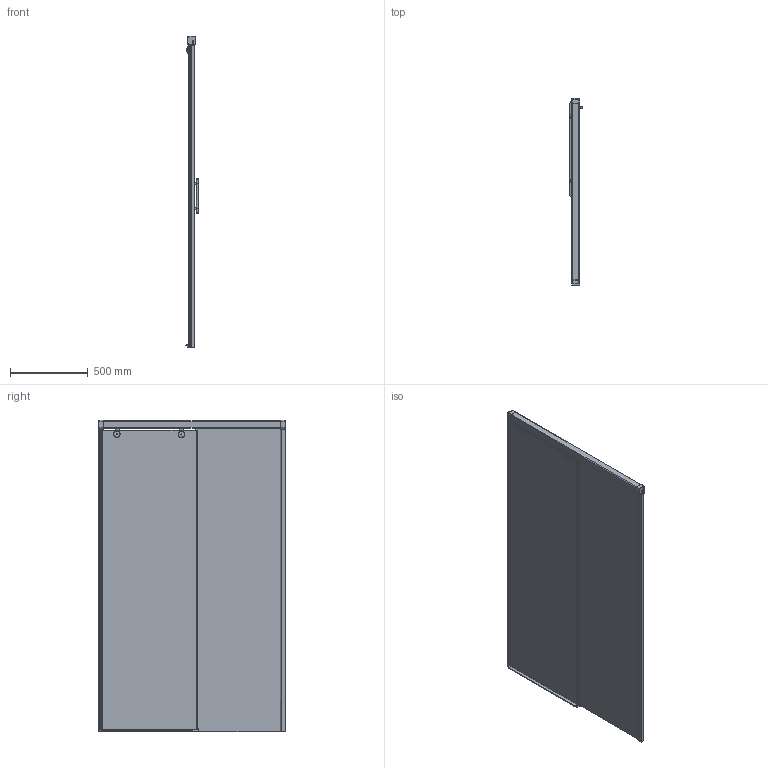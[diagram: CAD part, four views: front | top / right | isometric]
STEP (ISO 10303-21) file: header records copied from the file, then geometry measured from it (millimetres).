
FILE_DESCRIPTION(/* description */ (''),/* implementation_level */ '2;1');
FILE_NAME(/* name */ 'D:\4\!2\SLIDE DOOR GK-862\SLIDE DOOR GK-862 левая модель\SLIDE DOOR GK-862 ЛЕВАЯ-3D.stp',/* time_stamp */ '2017-11-21T15:13:24+03:00',/* author */ ('ChechurovS'),/* organization */ (''),/* preprocessor_version */ 'ST-DEVELOPER v15.2',/* originating_system */ 'Autodesk Inventor 2014',/* authorisation */ '');
FILE_SCHEMA (('CONFIG_CONTROL_DESIGN'));
Length unit declared in the file: millimetre
Products named in the file (1): SLIDE DOOR GK-862 ЛЕВАЯ-3D
Bounding box: 84.5 x 1200 x 2001.5 mm (x, y, z)
Volume: 22098409.7 mm3; surface area: 5625155.5 mm2
Topology: 3 solids, 5 shells, 566 faces, 1617 edges, 1055 vertices
Faces by surface type: plane 336, cylinder 190, torus 30, bspline 10
Full cylindrical faces by diameter (mm): 15 x3, 37 x4, 42 x4
Entity records: 19554 total; most frequent: CARTESIAN_POINT 4045, ORIENTED_EDGE 3178, DIRECTION 3060, EDGE_CURVE 1588, LINE 1104, VECTOR 1104, VERTEX_POINT 1047, AXIS2_PLACEMENT_3D 978
